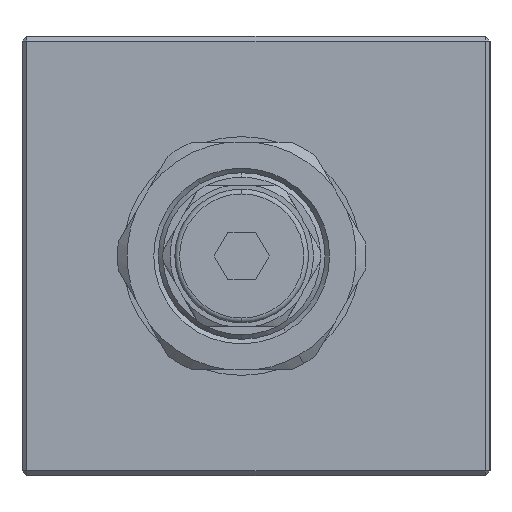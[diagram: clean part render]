
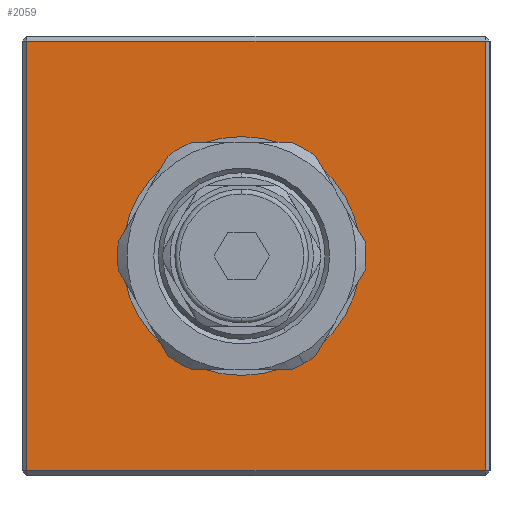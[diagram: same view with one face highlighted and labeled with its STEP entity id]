
A CAD part, left-side view. The second image highlights one B-rep face of the part: STEP entity #2059.
In plain terms, the highlighted planar face has unit normal (-1, 0, 0).
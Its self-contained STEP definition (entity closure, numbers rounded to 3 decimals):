
#323 = DIRECTION ( 'NONE',  ( 0., 0., -1. ) ) ;
#1026 = EDGE_LOOP ( 'NONE', ( #5207, #13459, #5337, #10146 ) ) ;
#1310 = VERTEX_POINT ( 'NONE', #15657 ) ;
#1399 = DIRECTION ( 'NONE',  ( 0., 0., -1. ) ) ;
#1409 = ORIENTED_EDGE ( 'NONE', *, *, #9217, .T. ) ;
#1524 = DIRECTION ( 'NONE',  ( 1., 0., 0. ) ) ;
#1951 = VECTOR ( 'NONE', #16426, 1000. ) ;
#2059 = ADVANCED_FACE ( 'NONE', ( #7791, #7870 ), #17010, .F. ) ;
#2545 = CARTESIAN_POINT ( 'NONE',  ( -9.6, 0., 0. ) ) ;
#2584 = LINE ( 'NONE', #16873, #6069 ) ;
#2630 = DIRECTION ( 'NONE',  ( 0., 0., 1. ) ) ;
#2890 = CARTESIAN_POINT ( 'NONE',  ( -9.6, -25.5, 22.5 ) ) ;
#2927 = CARTESIAN_POINT ( 'NONE',  ( -9.6, 22.5, -22.5 ) ) ;
#3318 = EDGE_CURVE ( 'NONE', #4075, #6411, #11212, .T. ) ;
#3562 = DIRECTION ( 'NONE',  ( 0., 0., -1. ) ) ;
#3598 = CARTESIAN_POINT ( 'NONE',  ( -9.6, -25.5, 23. ) ) ;
#4075 = VERTEX_POINT ( 'NONE', #2890 ) ;
#4660 = CIRCLE ( 'NONE', #13569, 12.5 ) ;
#5207 = ORIENTED_EDGE ( 'NONE', *, *, #16035, .T. ) ;
#5337 = ORIENTED_EDGE ( 'NONE', *, *, #12540, .T. ) ;
#5832 = CARTESIAN_POINT ( 'NONE',  ( -9.6, 22.5, 22.5 ) ) ;
#6069 = VECTOR ( 'NONE', #15661, 1000. ) ;
#6411 = VERTEX_POINT ( 'NONE', #5832 ) ;
#6446 = EDGE_CURVE ( 'NONE', #16435, #1310, #2584, .T. ) ;
#7165 = VERTEX_POINT ( 'NONE', #16683 ) ;
#7791 = FACE_OUTER_BOUND ( 'NONE', #1026, .T. ) ;
#7870 = FACE_BOUND ( 'NONE', #11425, .T. ) ;
#9217 = EDGE_CURVE ( 'NONE', #7165, #12508, #12664, .T. ) ;
#9786 = AXIS2_PLACEMENT_3D ( 'NONE', #12057, #1524, #323 ) ;
#9890 = CARTESIAN_POINT ( 'NONE',  ( -9.6, 0., -12.5 ) ) ;
#10146 = ORIENTED_EDGE ( 'NONE', *, *, #3318, .T. ) ;
#11212 = LINE ( 'NONE', #14882, #1951 ) ;
#11425 = EDGE_LOOP ( 'NONE', ( #13795, #1409 ) ) ;
#11535 = DIRECTION ( 'NONE',  ( 1., 0., 0. ) ) ;
#11787 = VECTOR ( 'NONE', #2630, 1000. ) ;
#12057 = CARTESIAN_POINT ( 'NONE',  ( -9.6, 23., 23. ) ) ;
#12508 = VERTEX_POINT ( 'NONE', #9890 ) ;
#12540 = EDGE_CURVE ( 'NONE', #1310, #4075, #15535, .T. ) ;
#12664 = CIRCLE ( 'NONE', #17109, 12.5 ) ;
#12893 = CARTESIAN_POINT ( 'NONE',  ( -9.6, 0., 0. ) ) ;
#13163 = CARTESIAN_POINT ( 'NONE',  ( -9.6, 22.5, 23. ) ) ;
#13185 = DIRECTION ( 'NONE',  ( 0., 0., -1. ) ) ;
#13459 = ORIENTED_EDGE ( 'NONE', *, *, #6446, .T. ) ;
#13569 = AXIS2_PLACEMENT_3D ( 'NONE', #12893, #16809, #3562 ) ;
#13795 = ORIENTED_EDGE ( 'NONE', *, *, #15093, .T. ) ;
#14479 = VECTOR ( 'NONE', #1399, 1000. ) ;
#14486 = LINE ( 'NONE', #13163, #14479 ) ;
#14882 = CARTESIAN_POINT ( 'NONE',  ( -9.6, 23., 22.5 ) ) ;
#15093 = EDGE_CURVE ( 'NONE', #12508, #7165, #4660, .T. ) ;
#15535 = LINE ( 'NONE', #3598, #11787 ) ;
#15657 = CARTESIAN_POINT ( 'NONE',  ( -9.6, -25.5, -22.5 ) ) ;
#15661 = DIRECTION ( 'NONE',  ( 0., -1., 0. ) ) ;
#16035 = EDGE_CURVE ( 'NONE', #6411, #16435, #14486, .T. ) ;
#16426 = DIRECTION ( 'NONE',  ( 0., 1., 0. ) ) ;
#16435 = VERTEX_POINT ( 'NONE', #2927 ) ;
#16683 = CARTESIAN_POINT ( 'NONE',  ( -9.6, 0., 12.5 ) ) ;
#16809 = DIRECTION ( 'NONE',  ( 1., 0., 0. ) ) ;
#16873 = CARTESIAN_POINT ( 'NONE',  ( -9.6, 23., -22.5 ) ) ;
#17010 = PLANE ( 'NONE',  #9786 ) ;
#17109 = AXIS2_PLACEMENT_3D ( 'NONE', #2545, #11535, #13185 ) ;
